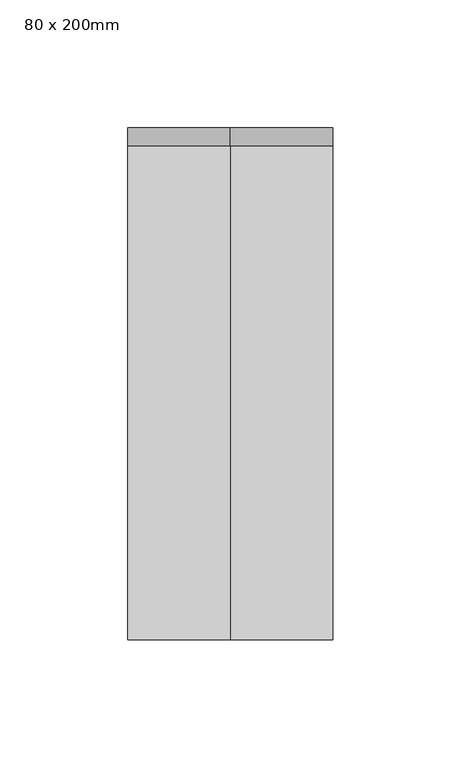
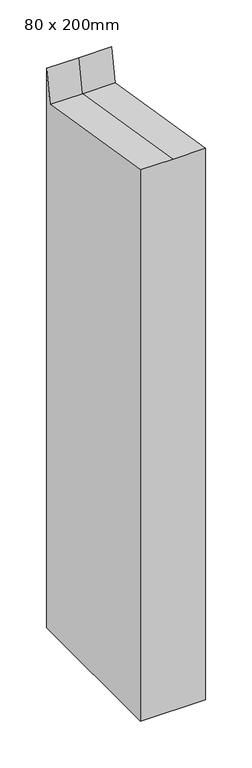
"""IFC4 building model written with IfcOpenShell, lengths in millimetres: member geometry, 矩形竖梃 : 80 x 200mm."""

from ifc_helpers import new_model, si_unit, origin, place, context, project, spatial, faceted_brep, source, transform, mapped, element, save


def member_80_x_200mm_d30ed080(model_context):
    return source(origin(), model_context, "Body", "Brep", [
        faceted_brep([(40.0, 100.0, -701.8964251), (40.0, -100.0, -701.8964251), (-40.0, -100.0, -701.8964251), (-40.0, 100.0, -701.8964251), (-40.0, 100.0, 26.8105668), (0.0, 100.0, 26.8105668), (40.0, 100.0, 26.8105668), (-40.0, -100.0, 16.0168184), (-40.0, 92.973187, -15.8034103), (40.0, -100.0, 16.0168184), (0.0, -100.0, 16.0168184), (40.0, 92.973187, -15.8034103), (0.0, 92.973187, -15.8034103)], [[[0, 1, 2, 3]], [[4, 5, 6, 0, 3]], [[7, 8, 4, 3, 2]], [[9, 10, 7, 2, 1]], [[6, 11, 9, 1, 0]], [[6, 5, 12, 11]], [[5, 4, 8, 12]], [[8, 7, 10, 12]], [[10, 9, 11, 12]]]),
    ])


if __name__ == "__main__":
    model = new_model("IFC4")
    model_context = context("Model", 3, world=origin())
    ifc_project = project(units=[si_unit("LENGTHUNIT", "METRE", prefix="MILLI")], contexts=[model_context])
    site = spatial("IfcSite", under=ifc_project)
    building = spatial("IfcBuilding", under=site)
    placement = place(None, origin())
    member_80_x_200mm_shape = member_80_x_200mm_d30ed080(model_context)
    element("IfcMember", 1, ObjectType="矩形竖梃 : 80 x 200mm", at=placement, inside=building, context=model_context, shape_type="MappedRepresentation", body=[
        mapped(member_80_x_200mm_shape, transform((0.0, 0.0, 0.0), x_axis=(1.0, 0.0, 0.0), y_axis=(0.0, 1.0, 0.0), z_axis=(0.0, 0.0, 1.0))),
    ])
    save(model, "model.ifc")
